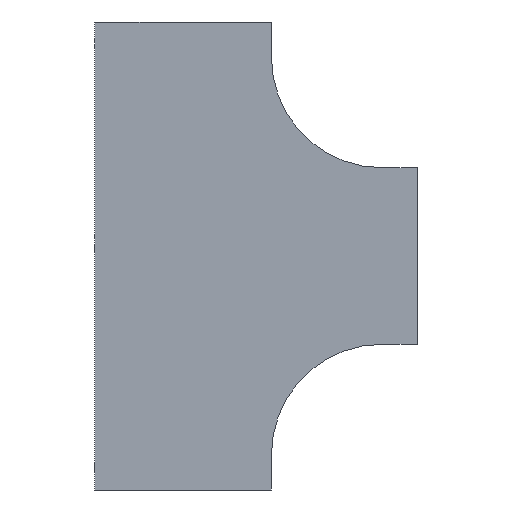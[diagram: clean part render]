
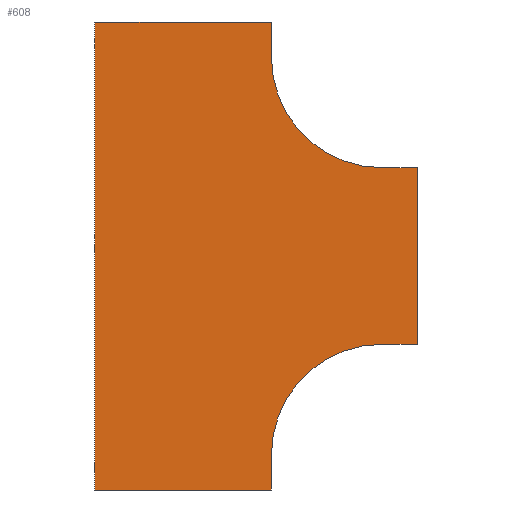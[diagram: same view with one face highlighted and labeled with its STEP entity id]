
A CAD part, front view. The second image highlights one B-rep face of the part: STEP entity #608.
In plain terms, the highlighted planar face has unit normal (0, -1, 0).
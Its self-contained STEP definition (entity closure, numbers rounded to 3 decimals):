
#14 = VECTOR ( 'NONE', #1900, 1000. ) ;
#42 = VERTEX_POINT ( 'NONE', #1515 ) ;
#63 = CARTESIAN_POINT ( 'NONE',  ( 0., 0., 0. ) ) ;
#74 = CARTESIAN_POINT ( 'NONE',  ( 0., 0., -125. ) ) ;
#91 = AXIS2_PLACEMENT_3D ( 'NONE', #63, #1890, #263 ) ;
#121 = ORIENTED_EDGE ( 'NONE', *, *, #1027, .F. ) ;
#128 = VECTOR ( 'NONE', #867, 1000. ) ;
#135 = CARTESIAN_POINT ( 'NONE',  ( -125., 0., -450. ) ) ;
#138 = CARTESIAN_POINT ( 'NONE',  ( 40., 0., -325. ) ) ;
#185 = DIRECTION ( 'NONE',  ( 0., 0., 1. ) ) ;
#191 = FACE_OUTER_BOUND ( 'NONE', #297, .T. ) ;
#217 = ORIENTED_EDGE ( 'NONE', *, *, #2227, .F. ) ;
#263 = DIRECTION ( 'NONE',  ( 0., 0., -1. ) ) ;
#281 = ORIENTED_EDGE ( 'NONE', *, *, #1275, .F. ) ;
#295 = DIRECTION ( 'NONE',  ( -1., 0., 0. ) ) ;
#297 = EDGE_LOOP ( 'NONE', ( #2088, #1276, #121, #2202, #2230, #217, #1801, #281, #1945, #1534 ) ) ;
#308 = VECTOR ( 'NONE', #1705, 1000. ) ;
#393 = CIRCLE ( 'NONE', #91, 125. ) ;
#435 = CARTESIAN_POINT ( 'NONE',  ( -325., 0., 40. ) ) ;
#439 = LINE ( 'NONE', #1153, #1301 ) ;
#441 = CARTESIAN_POINT ( 'NONE',  ( -125., 0., -490. ) ) ;
#442 = VERTEX_POINT ( 'NONE', #435 ) ;
#450 = LINE ( 'NONE', #820, #14 ) ;
#452 = EDGE_CURVE ( 'NONE', #2274, #2222, #816, .T. ) ;
#453 = CARTESIAN_POINT ( 'NONE',  ( -325., 0., -490. ) ) ;
#474 = CARTESIAN_POINT ( 'NONE',  ( -125., 0., 0. ) ) ;
#608 = ADVANCED_FACE ( 'NONE', ( #191 ), #1249, .T. ) ;
#648 = EDGE_CURVE ( 'NONE', #1092, #947, #393, .T. ) ;
#651 = EDGE_CURVE ( 'NONE', #442, #42, #1685, .T. ) ;
#683 = LINE ( 'NONE', #1059, #1721 ) ;
#702 = DIRECTION ( 'NONE',  ( 0., 0., 1. ) ) ;
#715 = CARTESIAN_POINT ( 'NONE',  ( -325., 0., -490. ) ) ;
#724 = AXIS2_PLACEMENT_3D ( 'NONE', #920, #1986, #2011 ) ;
#816 = LINE ( 'NONE', #1017, #1055 ) ;
#820 = CARTESIAN_POINT ( 'NONE',  ( -125., 0., -490. ) ) ;
#839 = VERTEX_POINT ( 'NONE', #135 ) ;
#844 = LINE ( 'NONE', #1938, #1304 ) ;
#849 = VECTOR ( 'NONE', #185, 1000. ) ;
#867 = DIRECTION ( 'NONE',  ( -1., 0., 0. ) ) ;
#920 = CARTESIAN_POINT ( 'NONE',  ( 0., 0., 0. ) ) ;
#947 = VERTEX_POINT ( 'NONE', #74 ) ;
#992 = DIRECTION ( 'NONE',  ( 0., 0., -1. ) ) ;
#997 = CARTESIAN_POINT ( 'NONE',  ( -325., 0., 40. ) ) ;
#1014 = CARTESIAN_POINT ( 'NONE',  ( 40., 0., -125. ) ) ;
#1017 = CARTESIAN_POINT ( 'NONE',  ( 40., 0., -125. ) ) ;
#1027 = EDGE_CURVE ( 'NONE', #1447, #1437, #844, .T. ) ;
#1055 = VECTOR ( 'NONE', #992, 1000. ) ;
#1059 = CARTESIAN_POINT ( 'NONE',  ( 0., 0., -125. ) ) ;
#1065 = LINE ( 'NONE', #715, #849 ) ;
#1092 = VERTEX_POINT ( 'NONE', #474 ) ;
#1093 = CARTESIAN_POINT ( 'NONE',  ( 0., 0., -325. ) ) ;
#1153 = CARTESIAN_POINT ( 'NONE',  ( -125., 0., 40. ) ) ;
#1249 = PLANE ( 'NONE',  #724 ) ;
#1275 = EDGE_CURVE ( 'NONE', #947, #2274, #683, .T. ) ;
#1276 = ORIENTED_EDGE ( 'NONE', *, *, #1865, .F. ) ;
#1301 = VECTOR ( 'NONE', #1862, 1000. ) ;
#1304 = VECTOR ( 'NONE', #295, 1000. ) ;
#1412 = DIRECTION ( 'NONE',  ( 0., -1., 0. ) ) ;
#1433 = LINE ( 'NONE', #2167, #128 ) ;
#1437 = VERTEX_POINT ( 'NONE', #453 ) ;
#1447 = VERTEX_POINT ( 'NONE', #441 ) ;
#1515 = CARTESIAN_POINT ( 'NONE',  ( -125., 0., 40. ) ) ;
#1534 = ORIENTED_EDGE ( 'NONE', *, *, #1944, .F. ) ;
#1635 = CIRCLE ( 'NONE', #1755, 125. ) ;
#1685 = LINE ( 'NONE', #997, #308 ) ;
#1705 = DIRECTION ( 'NONE',  ( 1., 0., 0. ) ) ;
#1721 = VECTOR ( 'NONE', #1966, 1000. ) ;
#1755 = AXIS2_PLACEMENT_3D ( 'NONE', #2345, #1412, #702 ) ;
#1801 = ORIENTED_EDGE ( 'NONE', *, *, #452, .F. ) ;
#1862 = DIRECTION ( 'NONE',  ( 0., 0., -1. ) ) ;
#1865 = EDGE_CURVE ( 'NONE', #1437, #442, #1065, .T. ) ;
#1890 = DIRECTION ( 'NONE',  ( 0., -1., 0. ) ) ;
#1900 = DIRECTION ( 'NONE',  ( 0., 0., -1. ) ) ;
#1938 = CARTESIAN_POINT ( 'NONE',  ( -325., 0., -490. ) ) ;
#1944 = EDGE_CURVE ( 'NONE', #42, #1092, #439, .T. ) ;
#1945 = ORIENTED_EDGE ( 'NONE', *, *, #648, .F. ) ;
#1966 = DIRECTION ( 'NONE',  ( 1., 0., 0. ) ) ;
#1986 = DIRECTION ( 'NONE',  ( 0., -1., 0. ) ) ;
#2011 = DIRECTION ( 'NONE',  ( 0., 0., -1. ) ) ;
#2045 = EDGE_CURVE ( 'NONE', #839, #1447, #450, .T. ) ;
#2088 = ORIENTED_EDGE ( 'NONE', *, *, #651, .F. ) ;
#2147 = EDGE_CURVE ( 'NONE', #2235, #839, #1635, .T. ) ;
#2167 = CARTESIAN_POINT ( 'NONE',  ( 0., 0., -325. ) ) ;
#2202 = ORIENTED_EDGE ( 'NONE', *, *, #2045, .F. ) ;
#2222 = VERTEX_POINT ( 'NONE', #138 ) ;
#2227 = EDGE_CURVE ( 'NONE', #2222, #2235, #1433, .T. ) ;
#2230 = ORIENTED_EDGE ( 'NONE', *, *, #2147, .F. ) ;
#2235 = VERTEX_POINT ( 'NONE', #1093 ) ;
#2274 = VERTEX_POINT ( 'NONE', #1014 ) ;
#2345 = CARTESIAN_POINT ( 'NONE',  ( 0., 0., -450. ) ) ;
